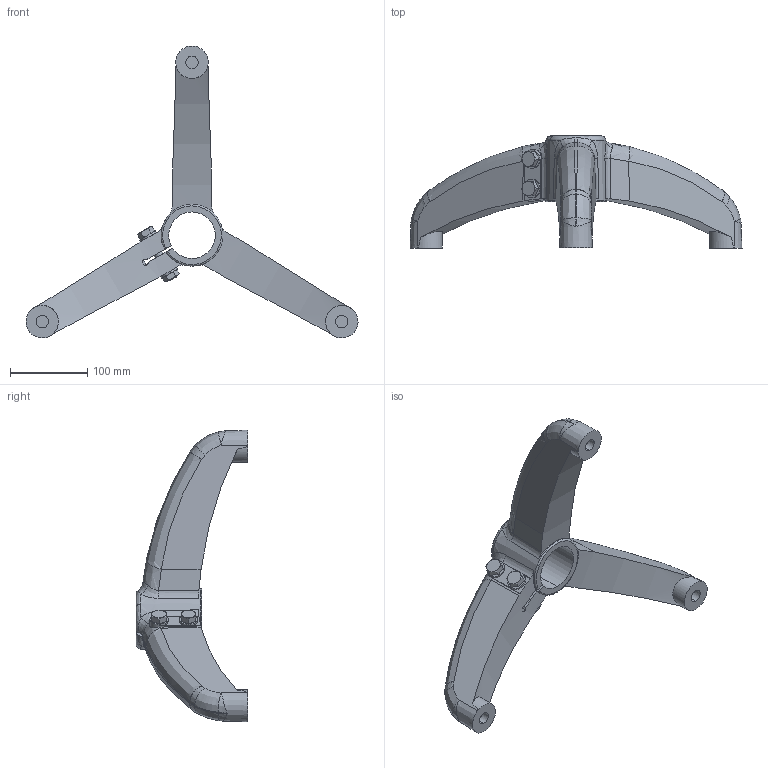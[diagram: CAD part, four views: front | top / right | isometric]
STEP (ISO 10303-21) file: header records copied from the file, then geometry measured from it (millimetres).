
FILE_DESCRIPTION (( 'STEP AP214' ), '1' );
FILE_NAME ('331 3.step', '2017-04-05T07:51:59', ( '' ), ( '' ), 'SwSTEP 2.0', 'SolidWorks 2015', '' );
FILE_SCHEMA (( 'AUTOMOTIVE_DESIGN' ));
Length unit declared in the file: millimetre
Products named in the file (1): 331 3
Bounding box: 429.96 x 145 x 378 mm (x, y, z)
Volume: 1920657.5 mm3; surface area: 190054.7 mm2
Topology: 1 solids, 1 shells, 248 faces, 608 edges, 375 vertices
Faces by surface type: plane 76, bspline 62, cylinder 56, cone 54
Entity records: 14637 total; most frequent: CARTESIAN_POINT 6819, ORIENTED_EDGE 1216, DIRECTION 848, EDGE_CURVE 608, VERTEX_POINT 375, AXIS2_PLACEMENT_3D 352, EDGE_LOOP 269, UNCERTAINTY_MEASURE_WITH_UNIT 251
